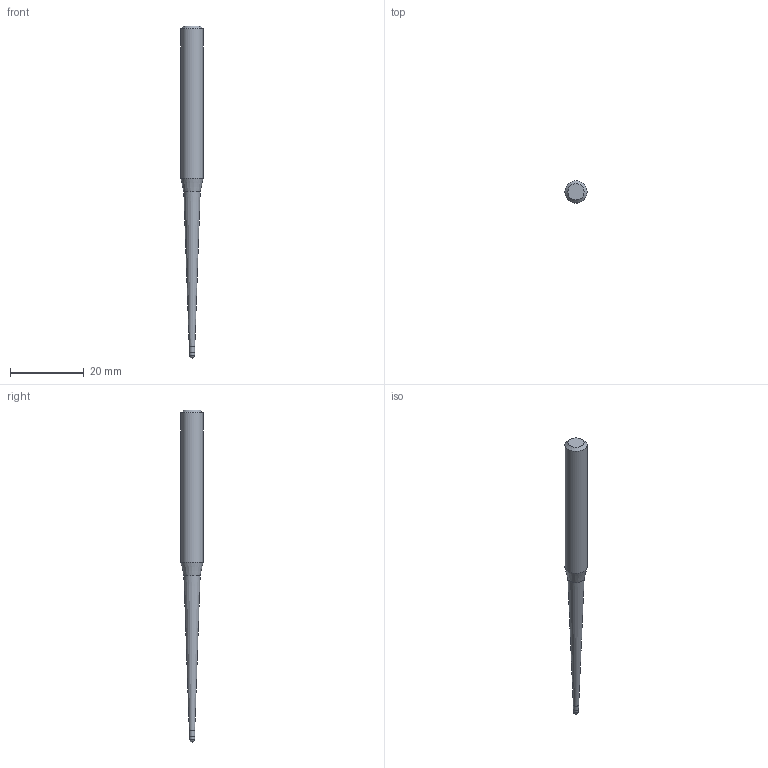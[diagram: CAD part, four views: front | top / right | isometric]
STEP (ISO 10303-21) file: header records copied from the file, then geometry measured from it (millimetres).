
FILE_DESCRIPTION((''),'2;1');
FILE_NAME('C:\Users\nsx150\AppData\Local\Temp\Mastercam 2021\SNAKH10GOD\TEMP.step','2021-10-21T13:32:58',(''),(''),'STEP Write','Mastercam 2021 ... CNC Software, Inc.','');
FILE_SCHEMA(('AUTOMOTIVE_DESIGN'));
Length unit declared in the file: millimetre
Products named in the file (1): None
Bounding box: 6 x 6 x 90 mm (x, y, z)
Volume: 1559.1 mm3; surface area: 1267.1 mm2
Topology: 2 solids, 2 shells, 10 faces, 16 edges, 9 vertices
Faces by surface type: plane 3, cylinder 3, cone 3, sphere 1
Full cylindrical faces by diameter (mm): 1.485 x1, 1.5 x1, 6 x1
Entity records: 232 total; most frequent: DIRECTION 40, CARTESIAN_POINT 28, AXIS2_PLACEMENT_3D 20, ORIENTED_EDGE 16, EDGE_LOOP 16, STYLED_ITEM 13, ADVANCED_FACE 10, FACE_BOUND 9
